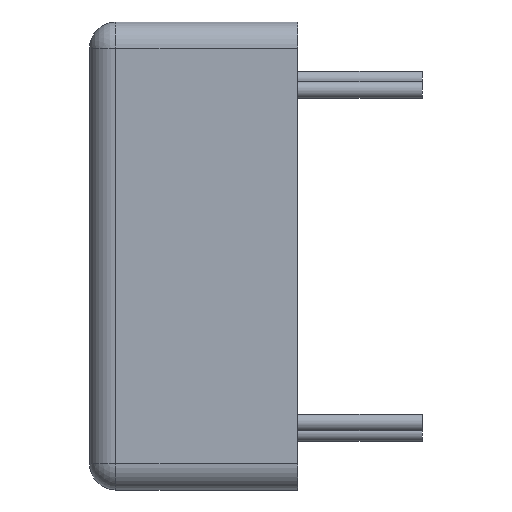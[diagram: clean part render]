
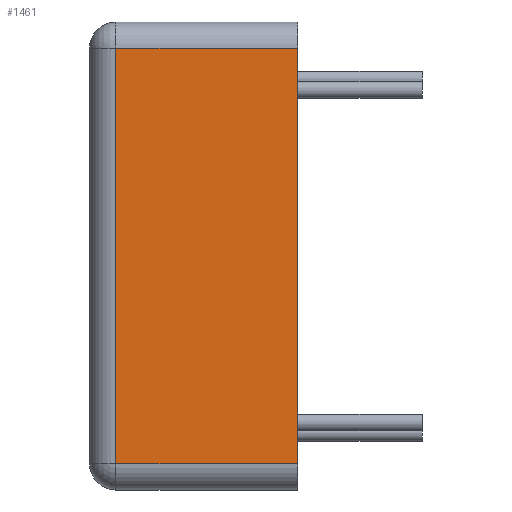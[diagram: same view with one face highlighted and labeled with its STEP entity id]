
A CAD part, left-side view. The second image highlights one B-rep face of the part: STEP entity #1461.
In plain terms, the highlighted planar face has unit normal (-1, 0, 0).
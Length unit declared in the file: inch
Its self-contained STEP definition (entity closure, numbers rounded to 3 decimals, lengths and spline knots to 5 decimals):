
#143 = VECTOR ( 'NONE', #2778, 39.37008 ) ;
#269 = CARTESIAN_POINT ( 'NONE',  ( -1.125, 0.5, 0.4995 ) ) ;
#595 = CARTESIAN_POINT ( 'NONE',  ( -1.125, 0., -0.4995 ) ) ;
#617 = ORIENTED_EDGE ( 'NONE', *, *, #644, .T. ) ;
#642 = CARTESIAN_POINT ( 'NONE',  ( -1.125, 0.437, -0.4995 ) ) ;
#644 = EDGE_CURVE ( 'NONE', #869, #1019, #2297, .T. ) ;
#676 = EDGE_LOOP ( 'NONE', ( #1509, #1177, #2303, #617 ) ) ;
#691 = CARTESIAN_POINT ( 'NONE',  ( -1.125, 0.5, -0.5625 ) ) ;
#709 = VECTOR ( 'NONE', #2706, 39.37008 ) ;
#869 = VERTEX_POINT ( 'NONE', #2060 ) ;
#916 = VERTEX_POINT ( 'NONE', #642 ) ;
#1019 = VERTEX_POINT ( 'NONE', #2612 ) ;
#1153 = VECTOR ( 'NONE', #1644, 39.37008 ) ;
#1166 = VERTEX_POINT ( 'NONE', #595 ) ;
#1177 = ORIENTED_EDGE ( 'NONE', *, *, #2680, .T. ) ;
#1250 = FACE_OUTER_BOUND ( 'NONE', #676, .T. ) ;
#1251 = PLANE ( 'NONE',  #2724 ) ;
#1405 = CARTESIAN_POINT ( 'NONE',  ( -1.125, 0.437, -0.5625 ) ) ;
#1461 = ADVANCED_FACE ( 'NONE', ( #1250 ), #1251, .F. ) ;
#1509 = ORIENTED_EDGE ( 'NONE', *, *, #1729, .T. ) ;
#1644 = DIRECTION ( 'NONE',  ( 0., 0., -1. ) ) ;
#1729 = EDGE_CURVE ( 'NONE', #1019, #916, #2386, .T. ) ;
#1829 = EDGE_CURVE ( 'NONE', #1166, #869, #1971, .T. ) ;
#1908 = CARTESIAN_POINT ( 'NONE',  ( -1.125, 0., -0.5625 ) ) ;
#1922 = CARTESIAN_POINT ( 'NONE',  ( -1.125, 0.5, -0.4995 ) ) ;
#1966 = DIRECTION ( 'NONE',  ( 0., -1., 0. ) ) ;
#1971 = LINE ( 'NONE', #1908, #709 ) ;
#2060 = CARTESIAN_POINT ( 'NONE',  ( -1.125, 0., 0.4995 ) ) ;
#2101 = DIRECTION ( 'NONE',  ( 1., 0., 0. ) ) ;
#2195 = LINE ( 'NONE', #1922, #2754 ) ;
#2297 = LINE ( 'NONE', #269, #143 ) ;
#2303 = ORIENTED_EDGE ( 'NONE', *, *, #1829, .T. ) ;
#2386 = LINE ( 'NONE', #1405, #1153 ) ;
#2612 = CARTESIAN_POINT ( 'NONE',  ( -1.125, 0.437, 0.4995 ) ) ;
#2649 = DIRECTION ( 'NONE',  ( 0., 0., -1. ) ) ;
#2680 = EDGE_CURVE ( 'NONE', #916, #1166, #2195, .T. ) ;
#2706 = DIRECTION ( 'NONE',  ( 0., 0., 1. ) ) ;
#2724 = AXIS2_PLACEMENT_3D ( 'NONE', #691, #2101, #2649 ) ;
#2754 = VECTOR ( 'NONE', #1966, 39.37008 ) ;
#2778 = DIRECTION ( 'NONE',  ( 0., 1., 0. ) ) ;
